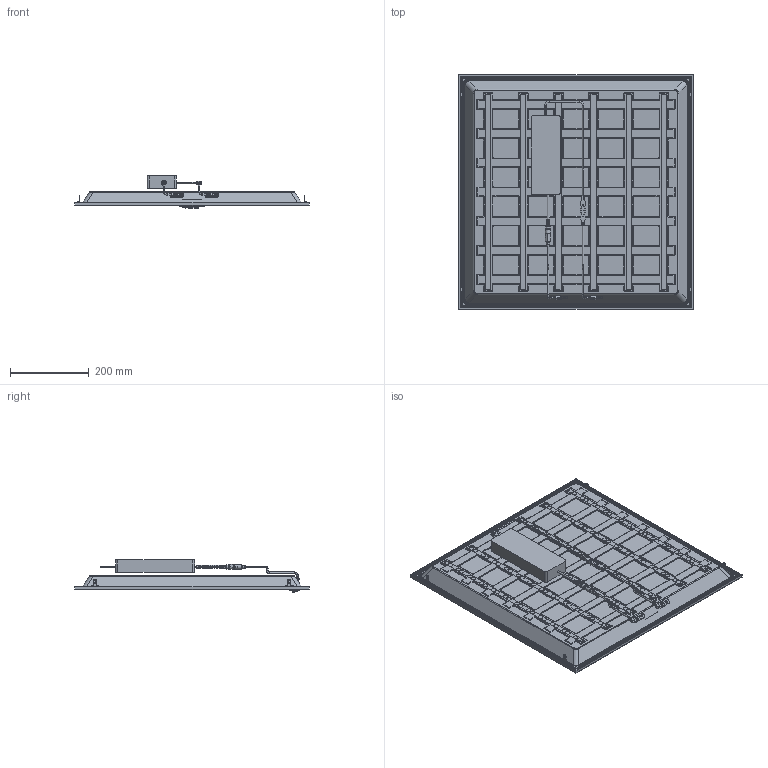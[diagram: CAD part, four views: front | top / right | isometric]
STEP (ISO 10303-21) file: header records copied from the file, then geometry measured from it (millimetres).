
FILE_DESCRIPTION(/* description */ (''),/* implementation_level */ '2;1');
FILE_NAME(/* name */ '929003936901 3D_20250908.stp',/* time_stamp */ '2025-09-08T10:28:02+08:00',/* author */ (''),/* organization */ (''),/* preprocessor_version */ 'ST-DEVELOPER v20',/* originating_system */ 'SIEMENS PLM Software NX2406.7001',/* authorisation */ '');
FILE_SCHEMA (('AUTOMOTIVE_DESIGN { 1 0 10303 214 3 1 1 1 }'));
Products named in the file (1): 929003936901 sh10 20250414_step_objects
Bounding box: 595 x 595 x 81.94 mm (x, y, z)
Volume: 1307853.4 mm3; surface area: 2492164.2 mm2
Topology: 54 solids, 59 shells, 5784 faces, 14638 edges, 9320 vertices
Faces by surface type: cylinder 2667, plane 2433, torus 265, bspline 176, cone 162, sphere 81
Entity records: 209968 total; most frequent: CARTESIAN_POINT 70974, ORIENTED_EDGE 29206, DIRECTION 26117, EDGE_CURVE 14603, AXIS2_PLACEMENT_3D 9357, VERTEX_POINT 9318, LINE 7403, VECTOR 7403
